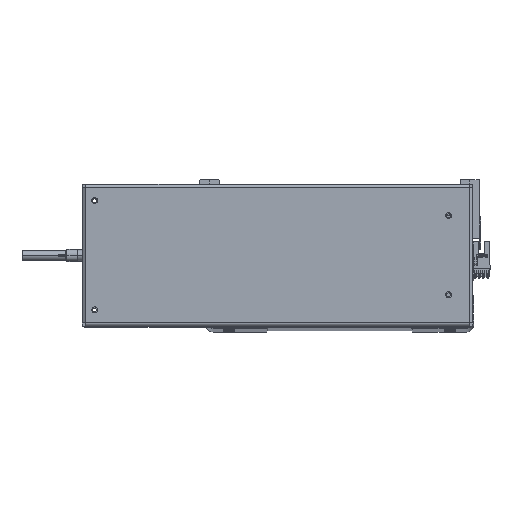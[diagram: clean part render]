
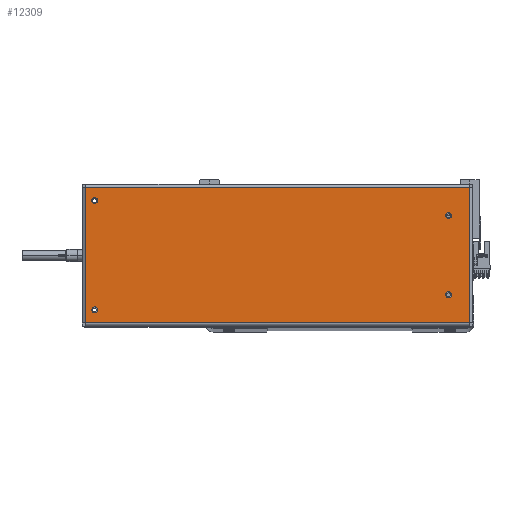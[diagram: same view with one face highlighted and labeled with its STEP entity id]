
A CAD part, top view. The second image highlights one B-rep face of the part: STEP entity #12309.
In plain terms, the highlighted planar face has unit normal (0, 0, 1).
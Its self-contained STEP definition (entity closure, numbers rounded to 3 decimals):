
#8 = EDGE_CURVE ( 'NONE', #9655, #30843, #4388, .T. ) ;
#107 = VECTOR ( 'NONE', #31795, 1000. ) ;
#389 = DIRECTION ( 'NONE',  ( 0., 0., 1. ) ) ;
#950 = ORIENTED_EDGE ( 'NONE', *, *, #24824, .T. ) ;
#1101 = VERTEX_POINT ( 'NONE', #32208 ) ;
#1793 = CARTESIAN_POINT ( 'NONE',  ( 153., 45., 0. ) ) ;
#2161 = CARTESIAN_POINT ( 'NONE',  ( -138., 32.5, 0. ) ) ;
#2251 = CARTESIAN_POINT ( 'NONE',  ( -157.7, -55.6, 0. ) ) ;
#2324 = AXIS2_PLACEMENT_3D ( 'NONE', #12261, #36119, #13222 ) ;
#2538 = DIRECTION ( 'NONE',  ( 0., -1., 0. ) ) ;
#2699 = DIRECTION ( 'NONE',  ( -1., 0., 0. ) ) ;
#3011 = DIRECTION ( 'NONE',  ( 0., 0., 1. ) ) ;
#4283 = CARTESIAN_POINT ( 'NONE',  ( -138., -32.5, 0. ) ) ;
#4388 = CIRCLE ( 'NONE', #35281, 2.5 ) ;
#4437 = FACE_BOUND ( 'NONE', #36617, .T. ) ;
#4571 = EDGE_LOOP ( 'NONE', ( #15376, #16459 ) ) ;
#4718 = EDGE_CURVE ( 'NONE', #7209, #17409, #21975, .T. ) ;
#5167 = EDGE_CURVE ( 'NONE', #30843, #9655, #11684, .T. ) ;
#5431 = CARTESIAN_POINT ( 'NONE',  ( 150.5, -45., 0. ) ) ;
#5729 = AXIS2_PLACEMENT_3D ( 'NONE', #32002, #12382, #2699 ) ;
#6300 = CARTESIAN_POINT ( 'NONE',  ( -157.6, -55.6, 0. ) ) ;
#7209 = VERTEX_POINT ( 'NONE', #9549 ) ;
#7222 = AXIS2_PLACEMENT_3D ( 'NONE', #8870, #9166, #12127 ) ;
#7356 = EDGE_LOOP ( 'NONE', ( #950, #26671, #33333, #34503 ) ) ;
#8174 = CIRCLE ( 'NONE', #34904, 2.5 ) ;
#8510 = FACE_OUTER_BOUND ( 'NONE', #7356, .T. ) ;
#8666 = EDGE_CURVE ( 'NONE', #12474, #12092, #11342, .T. ) ;
#8870 = CARTESIAN_POINT ( 'NONE',  ( -140.5, 32.5, 0. ) ) ;
#9136 = PLANE ( 'NONE',  #5729 ) ;
#9166 = DIRECTION ( 'NONE',  ( 0., 0., 1. ) ) ;
#9483 = ORIENTED_EDGE ( 'NONE', *, *, #8666, .F. ) ;
#9549 = CARTESIAN_POINT ( 'NONE',  ( 157.6, 55.6, 0. ) ) ;
#9655 = VERTEX_POINT ( 'NONE', #34036 ) ;
#9709 = CARTESIAN_POINT ( 'NONE',  ( -140.5, 32.5, 0. ) ) ;
#9810 = EDGE_CURVE ( 'NONE', #10079, #36405, #13809, .T. ) ;
#9823 = CARTESIAN_POINT ( 'NONE',  ( -143., -32.5, 0. ) ) ;
#10000 = EDGE_LOOP ( 'NONE', ( #41624, #28878 ) ) ;
#10057 = FACE_BOUND ( 'NONE', #25518, .T. ) ;
#10079 = VERTEX_POINT ( 'NONE', #1793 ) ;
#11342 = CIRCLE ( 'NONE', #41902, 2.5 ) ;
#11684 = CIRCLE ( 'NONE', #14314, 2.5 ) ;
#11814 = DIRECTION ( 'NONE',  ( 1., 0., 0. ) ) ;
#12092 = VERTEX_POINT ( 'NONE', #4283 ) ;
#12127 = DIRECTION ( 'NONE',  ( 1., 0., 0. ) ) ;
#12261 = CARTESIAN_POINT ( 'NONE',  ( 150.5, 45., 0. ) ) ;
#12309 = ADVANCED_FACE ( 'NONE', ( #4437, #32053, #10057, #17186, #8510 ), #9136, .F. ) ;
#12382 = DIRECTION ( 'NONE',  ( 0., 0., -1. ) ) ;
#12474 = VERTEX_POINT ( 'NONE', #9823 ) ;
#13046 = CIRCLE ( 'NONE', #7222, 2.5 ) ;
#13222 = DIRECTION ( 'NONE',  ( 1., 0., 0. ) ) ;
#13439 = AXIS2_PLACEMENT_3D ( 'NONE', #18888, #35455, #32185 ) ;
#13809 = CIRCLE ( 'NONE', #2324, 2.5 ) ;
#13881 = LINE ( 'NONE', #34950, #107 ) ;
#14314 = AXIS2_PLACEMENT_3D ( 'NONE', #5431, #41025, #21291 ) ;
#14645 = CARTESIAN_POINT ( 'NONE',  ( 150.5, 45., 0. ) ) ;
#14949 = CARTESIAN_POINT ( 'NONE',  ( -143., 32.5, 0. ) ) ;
#15376 = ORIENTED_EDGE ( 'NONE', *, *, #9810, .F. ) ;
#15497 = EDGE_CURVE ( 'NONE', #12092, #12474, #31326, .T. ) ;
#16459 = ORIENTED_EDGE ( 'NONE', *, *, #17342, .F. ) ;
#16811 = DIRECTION ( 'NONE',  ( 1., 0., 0. ) ) ;
#17107 = CARTESIAN_POINT ( 'NONE',  ( -140.5, -32.5, 0. ) ) ;
#17186 = FACE_BOUND ( 'NONE', #4571, .T. ) ;
#17342 = EDGE_CURVE ( 'NONE', #36405, #10079, #8174, .T. ) ;
#17409 = VERTEX_POINT ( 'NONE', #27529 ) ;
#18087 = VECTOR ( 'NONE', #37539, 1000. ) ;
#18699 = CARTESIAN_POINT ( 'NONE',  ( 157.7, 55.6, 0. ) ) ;
#18888 = CARTESIAN_POINT ( 'NONE',  ( -140.5, -32.5, 0. ) ) ;
#19444 = DIRECTION ( 'NONE',  ( 1., 0., 0. ) ) ;
#20543 = ORIENTED_EDGE ( 'NONE', *, *, #15497, .F. ) ;
#21291 = DIRECTION ( 'NONE',  ( 1., 0., 0. ) ) ;
#21372 = EDGE_CURVE ( 'NONE', #25250, #1101, #37058, .T. ) ;
#21538 = DIRECTION ( 'NONE',  ( 0., 0., 1. ) ) ;
#21975 = LINE ( 'NONE', #18699, #25536 ) ;
#22065 = VERTEX_POINT ( 'NONE', #14949 ) ;
#24824 = EDGE_CURVE ( 'NONE', #17409, #25250, #31599, .T. ) ;
#25250 = VERTEX_POINT ( 'NONE', #6300 ) ;
#25389 = CARTESIAN_POINT ( 'NONE',  ( 150.5, -45., 0. ) ) ;
#25495 = ORIENTED_EDGE ( 'NONE', *, *, #5167, .F. ) ;
#25518 = EDGE_LOOP ( 'NONE', ( #32503, #25495 ) ) ;
#25536 = VECTOR ( 'NONE', #38412, 1000. ) ;
#26339 = VERTEX_POINT ( 'NONE', #2161 ) ;
#26671 = ORIENTED_EDGE ( 'NONE', *, *, #21372, .T. ) ;
#26984 = VECTOR ( 'NONE', #2538, 1000. ) ;
#27529 = CARTESIAN_POINT ( 'NONE',  ( -157.6, 55.6, 0. ) ) ;
#27797 = EDGE_CURVE ( 'NONE', #1101, #7209, #13881, .T. ) ;
#27977 = AXIS2_PLACEMENT_3D ( 'NONE', #9709, #3011, #19444 ) ;
#28040 = CARTESIAN_POINT ( 'NONE',  ( 148., 45., 0. ) ) ;
#28523 = DIRECTION ( 'NONE',  ( 0., 0., 1. ) ) ;
#28878 = ORIENTED_EDGE ( 'NONE', *, *, #34526, .F. ) ;
#30843 = VERTEX_POINT ( 'NONE', #30896 ) ;
#30896 = CARTESIAN_POINT ( 'NONE',  ( 148., -45., 0. ) ) ;
#31326 = CIRCLE ( 'NONE', #13439, 2.5 ) ;
#31599 = LINE ( 'NONE', #41882, #26984 ) ;
#31795 = DIRECTION ( 'NONE',  ( 0., 1., 0. ) ) ;
#32002 = CARTESIAN_POINT ( 'NONE',  ( 157.7, 58.5, 0. ) ) ;
#32053 = FACE_BOUND ( 'NONE', #10000, .T. ) ;
#32185 = DIRECTION ( 'NONE',  ( 1., 0., 0. ) ) ;
#32208 = CARTESIAN_POINT ( 'NONE',  ( 157.6, -55.6, 0. ) ) ;
#32503 = ORIENTED_EDGE ( 'NONE', *, *, #8, .F. ) ;
#33333 = ORIENTED_EDGE ( 'NONE', *, *, #27797, .T. ) ;
#33585 = CIRCLE ( 'NONE', #27977, 2.5 ) ;
#34036 = CARTESIAN_POINT ( 'NONE',  ( 153., -45., 0. ) ) ;
#34503 = ORIENTED_EDGE ( 'NONE', *, *, #4718, .T. ) ;
#34526 = EDGE_CURVE ( 'NONE', #22065, #26339, #33585, .T. ) ;
#34904 = AXIS2_PLACEMENT_3D ( 'NONE', #14645, #21538, #41002 ) ;
#34950 = CARTESIAN_POINT ( 'NONE',  ( 157.6, -55.6, 0. ) ) ;
#35281 = AXIS2_PLACEMENT_3D ( 'NONE', #25389, #28523, #11814 ) ;
#35455 = DIRECTION ( 'NONE',  ( 0., 0., 1. ) ) ;
#35509 = EDGE_CURVE ( 'NONE', #26339, #22065, #13046, .T. ) ;
#36119 = DIRECTION ( 'NONE',  ( 0., 0., 1. ) ) ;
#36405 = VERTEX_POINT ( 'NONE', #28040 ) ;
#36617 = EDGE_LOOP ( 'NONE', ( #20543, #9483 ) ) ;
#37058 = LINE ( 'NONE', #2251, #18087 ) ;
#37539 = DIRECTION ( 'NONE',  ( 1., 0., 0. ) ) ;
#38412 = DIRECTION ( 'NONE',  ( -1., 0., 0. ) ) ;
#41002 = DIRECTION ( 'NONE',  ( 1., 0., 0. ) ) ;
#41025 = DIRECTION ( 'NONE',  ( 0., 0., 1. ) ) ;
#41624 = ORIENTED_EDGE ( 'NONE', *, *, #35509, .F. ) ;
#41882 = CARTESIAN_POINT ( 'NONE',  ( -157.6, 55.6, 0. ) ) ;
#41902 = AXIS2_PLACEMENT_3D ( 'NONE', #17107, #389, #16811 ) ;
